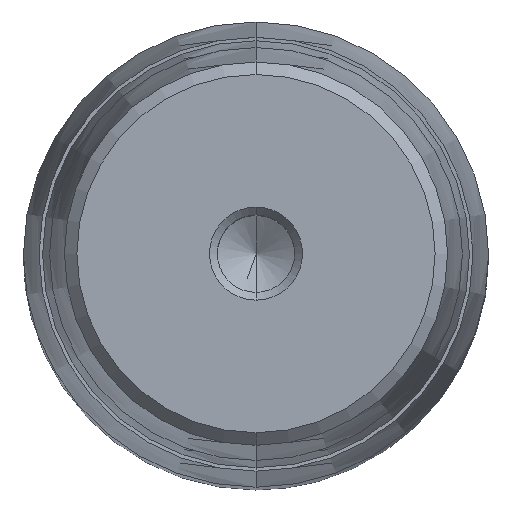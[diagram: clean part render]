
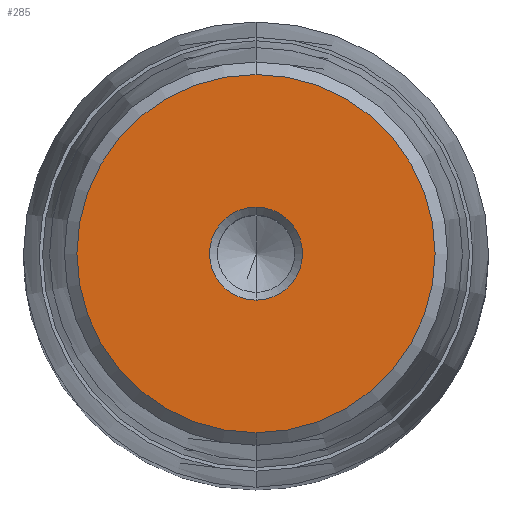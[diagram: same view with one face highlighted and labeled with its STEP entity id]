
A CAD part, top view. The second image highlights one B-rep face of the part: STEP entity #285.
In plain terms, the highlighted planar face has unit normal (0, 0, 1).
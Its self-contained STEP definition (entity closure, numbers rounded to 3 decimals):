
#164=CARTESIAN_POINT('Axis2P3D Location',(0.,0.,48.)) ;
#168=CARTESIAN_POINT('Vertex',(4.,0.,48.)) ;
#170=CARTESIAN_POINT('Vertex',(0.,-4.,48.)) ;
#173=CARTESIAN_POINT('Axis2P3D Location',(0.,0.,48.)) ;
#177=CARTESIAN_POINT('Vertex',(0.,4.,48.)) ;
#228=CARTESIAN_POINT('Axis2P3D Location',(0.,4.,48.)) ;
#233=CARTESIAN_POINT('Axis2P3D Location',(0.,0.,48.)) ;
#237=CARTESIAN_POINT('Vertex',(0.,15.4,48.)) ;
#239=CARTESIAN_POINT('Vertex',(15.4,0.,48.)) ;
#242=CARTESIAN_POINT('Axis2P3D Location',(0.,0.,48.)) ;
#246=CARTESIAN_POINT('Vertex',(-15.4,0.,48.)) ;
#249=CARTESIAN_POINT('Axis2P3D Location',(0.,0.,48.)) ;
#253=CARTESIAN_POINT('Vertex',(0.,-15.4,48.)) ;
#256=CARTESIAN_POINT('Axis2P3D Location',(0.,0.,48.)) ;
#267=CARTESIAN_POINT('Axis2P3D Location',(0.,0.,48.)) ;
#271=CARTESIAN_POINT('Vertex',(-4.,0.,48.)) ;
#274=CARTESIAN_POINT('Axis2P3D Location',(0.,0.,48.)) ;
#165=DIRECTION('Axis2P3D Direction',(-0.,0.,1.)) ;
#174=DIRECTION('Axis2P3D Direction',(-0.,0.,1.)) ;
#229=DIRECTION('Axis2P3D Direction',(0.,0.,-1.)) ;
#230=DIRECTION('Axis2P3D XDirection',(0.,1.,0.)) ;
#234=DIRECTION('Axis2P3D Direction',(0.,0.,-1.)) ;
#243=DIRECTION('Axis2P3D Direction',(0.,0.,-1.)) ;
#250=DIRECTION('Axis2P3D Direction',(0.,0.,-1.)) ;
#257=DIRECTION('Axis2P3D Direction',(0.,0.,-1.)) ;
#268=DIRECTION('Axis2P3D Direction',(0.,0.,-1.)) ;
#275=DIRECTION('Axis2P3D Direction',(0.,0.,-1.)) ;
#166=AXIS2_PLACEMENT_3D('Circle Axis2P3D',#164,#165,$) ;
#175=AXIS2_PLACEMENT_3D('Circle Axis2P3D',#173,#174,$) ;
#231=AXIS2_PLACEMENT_3D('Plane Axis2P3D',#228,#229,#230) ;
#235=AXIS2_PLACEMENT_3D('Circle Axis2P3D',#233,#234,$) ;
#244=AXIS2_PLACEMENT_3D('Circle Axis2P3D',#242,#243,$) ;
#251=AXIS2_PLACEMENT_3D('Circle Axis2P3D',#249,#250,$) ;
#258=AXIS2_PLACEMENT_3D('Circle Axis2P3D',#256,#257,$) ;
#269=AXIS2_PLACEMENT_3D('Circle Axis2P3D',#267,#268,$) ;
#276=AXIS2_PLACEMENT_3D('Circle Axis2P3D',#274,#275,$) ;
#262=ORIENTED_EDGE('',*,*,#241,.F.) ;
#263=ORIENTED_EDGE('',*,*,#248,.F.) ;
#264=ORIENTED_EDGE('',*,*,#255,.F.) ;
#265=ORIENTED_EDGE('',*,*,#260,.F.) ;
#280=ORIENTED_EDGE('',*,*,#172,.T.) ;
#281=ORIENTED_EDGE('',*,*,#273,.T.) ;
#282=ORIENTED_EDGE('',*,*,#278,.T.) ;
#283=ORIENTED_EDGE('',*,*,#179,.T.) ;
#284=FACE_BOUND('',#279,.T.) ;
#285=ADVANCED_FACE('722-40x160x193',(#266,#284),#232,.F.) ;
#167=CIRCLE('generated circle',#166,4.) ;
#176=CIRCLE('generated circle',#175,4.) ;
#236=CIRCLE('generated circle',#235,15.4) ;
#245=CIRCLE('generated circle',#244,15.4) ;
#252=CIRCLE('generated circle',#251,15.4) ;
#259=CIRCLE('generated circle',#258,15.4) ;
#270=CIRCLE('generated circle',#269,4.) ;
#277=CIRCLE('generated circle',#276,4.) ;
#172=EDGE_CURVE('',#169,#171,#167,.F.) ;
#179=EDGE_CURVE('',#178,#169,#176,.F.) ;
#241=EDGE_CURVE('',#238,#240,#236,.T.) ;
#248=EDGE_CURVE('',#247,#238,#245,.T.) ;
#255=EDGE_CURVE('',#254,#247,#252,.T.) ;
#260=EDGE_CURVE('',#240,#254,#259,.T.) ;
#273=EDGE_CURVE('',#171,#272,#270,.T.) ;
#278=EDGE_CURVE('',#272,#178,#277,.T.) ;
#261=EDGE_LOOP('',(#262,#263,#264,#265)) ;
#279=EDGE_LOOP('',(#280,#281,#282,#283)) ;
#266=FACE_OUTER_BOUND('',#261,.T.) ;
#232=PLANE('Plane',#231) ;
#169=VERTEX_POINT('',#168) ;
#171=VERTEX_POINT('',#170) ;
#178=VERTEX_POINT('',#177) ;
#238=VERTEX_POINT('',#237) ;
#240=VERTEX_POINT('',#239) ;
#247=VERTEX_POINT('',#246) ;
#254=VERTEX_POINT('',#253) ;
#272=VERTEX_POINT('',#271) ;
